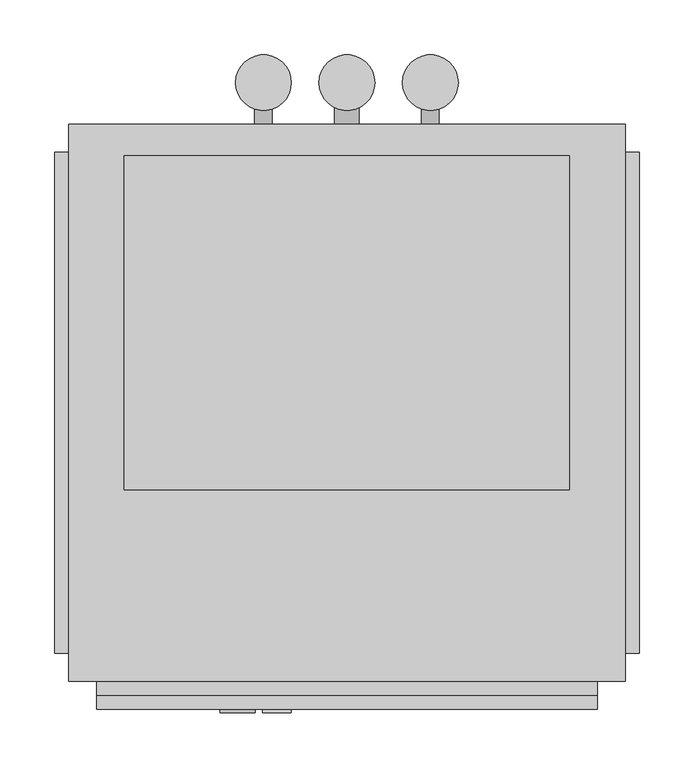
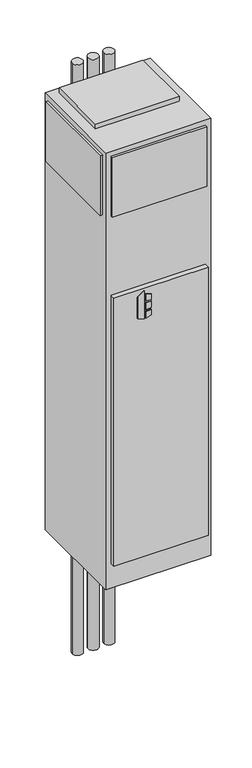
"""IFC4 building model written with IfcOpenShell, lengths in millimetres: proxy geometry, Concealed_Universal_Modular_Fan_Coil_Unit_-_MUY_-_IEC_-_2-Pipe_Cool-EHeat_-_WithRisers_2022 : Size 06 - 277v/60Hz/1Ph - 4 Row 6.0kW."""

from ifc_helpers import new_model, si_unit, point, frame, frame_2d, origin, origin_with_axes, place, context, project, spatial, polyline, circle_curve, trimmed, segment, composite_curve, outline, extrude, source, transform, mapped, element, save


def mechanical_equipment_33375677(model_context):
    return source(origin(), model_context, "Body", "SweptSolid", [
        extrude(outline(polyline([(1356.1480703, 290.5868862), (1346.2, 322.7602728), (1488.3709244, 322.7602728), (1465.3489183, 290.5868862), (1356.1480703, 290.5868862)])), frame((0.0, -292.1, 0.0), z_axis=(0.0, 1.0, 0.0), x_axis=(0.0, 0.0, 1.0)), (0.0, 0.0, 1.0), 3.175),
        extrude(outline(polyline([(1435.1473557, 329.5186058), (1431.9449632, 355.6), (1461.1738042, 355.6), (1469.2382193, 329.5186058), (1435.1473557, 329.5186058)])), frame((0.0, -292.1, 0.0), z_axis=(0.0, 1.0, 0.0), x_axis=(0.0, 0.0, 1.0)), (0.0, 0.0, 1.0), 3.175),
        extrude(outline(polyline([(1383.2838288, 355.6), (1379.6183279, 329.5186058), (1346.2, 329.5186058), (1354.8342372, 355.6), (1383.2838288, 355.6)])), frame((0.0, -292.1, 0.0), z_axis=(0.0, 1.0, 0.0), x_axis=(0.0, 0.0, 1.0)), (0.0, 0.0, 1.0), 3.175),
        extrude(outline(polyline([(1422.5989903, 355.6), (1424.8808166, 329.5186058), (1388.9432681, 329.5186058), (1391.6845331, 355.6), (1422.5989903, 355.6)])), frame((0.0, -292.1, 0.0), z_axis=(0.0, 1.0, 0.0), x_axis=(0.0, 0.0, 1.0)), (0.0, 0.0, 1.0), 3.175),
        extrude(outline(composite_curve([segment(trimmed(circle_curve(frame_2d((330.2, 282.575)), 25.4), [point((304.8, 282.575))], [point((355.6, 282.575))], False, "CARTESIAN"), True, "CONTINUOUS"), segment(trimmed(circle_curve(frame_2d((330.2, 282.575)), 25.4), [point((355.6, 282.575))], [point((304.8, 282.575))], False, "CARTESIAN"), True, "CONTINUOUS")], self_intersect=False)), frame((0.0, 0.0, -711.2), z_axis=(0.0, 0.0, 1.0), x_axis=(1.0, 0.0, 0.0)), (0.0, 0.0, 1.0), 3022.6),
        extrude(outline(composite_curve([segment(trimmed(circle_curve(frame_2d((406.4, 282.575)), 25.4), [point((381.0, 282.575))], [point((431.8, 282.575))], False, "CARTESIAN"), True, "CONTINUOUS"), segment(trimmed(circle_curve(frame_2d((406.4, 282.575)), 25.4), [point((431.8, 282.575))], [point((381.0, 282.575))], False, "CARTESIAN"), True, "CONTINUOUS")], self_intersect=False)), frame((0.0, 0.0, -711.2), z_axis=(0.0, 0.0, 1.0), x_axis=(1.0, 0.0, 0.0)), (0.0, 0.0, 1.0), 3022.6),
        extrude(outline(composite_curve([segment(trimmed(circle_curve(frame_2d((482.6, 282.575)), 25.4), [point((457.2, 282.575))], [point((508.0, 282.575))], False, "CARTESIAN"), True, "CONTINUOUS"), segment(trimmed(circle_curve(frame_2d((482.6, 282.575)), 25.4), [point((508.0, 282.575))], [point((457.2, 282.575))], False, "CARTESIAN"), True, "CONTINUOUS")], self_intersect=False)), frame((0.0, 0.0, -711.2), z_axis=(0.0, 0.0, 1.0), x_axis=(1.0, 0.0, 0.0)), (0.0, 0.0, 1.0), 3022.6),
        extrude(outline(composite_curve([segment(trimmed(circle_curve(frame_2d((990.6, 482.6)), 7.9375), [point((990.6, 474.6625))], [point((990.6, 490.5375))], False, "CARTESIAN"), True, "CONTINUOUS"), segment(trimmed(circle_curve(frame_2d((990.6, 482.6)), 7.9375), [point((990.6, 490.5375))], [point((990.6, 474.6625))], False, "CARTESIAN"), True, "CONTINUOUS")], self_intersect=False)), frame((0.0, 244.475, 0.0), z_axis=(0.0, 1.0, 0.0), x_axis=(0.0, 0.0, 1.0)), (0.0, 0.0, 1.0), 50.8),
        extrude(outline(composite_curve([segment(trimmed(circle_curve(frame_2d((990.6, 330.2)), 7.9375), [point((990.6, 322.2625))], [point((990.6, 338.1375))], False, "CARTESIAN"), True, "CONTINUOUS"), segment(trimmed(circle_curve(frame_2d((990.6, 330.2)), 7.9375), [point((990.6, 338.1375))], [point((990.6, 322.2625))], False, "CARTESIAN"), True, "CONTINUOUS")], self_intersect=False)), frame((0.0, 244.475, 0.0), z_axis=(0.0, 1.0, 0.0), x_axis=(0.0, 0.0, 1.0)), (0.0, 0.0, 1.0), 50.8),
        extrude(outline(composite_curve([segment(trimmed(circle_curve(frame_2d((76.2, 406.4)), 11.1125), [point((76.2, 395.2875))], [point((76.2, 417.5125))], False, "CARTESIAN"), True, "CONTINUOUS"), segment(trimmed(circle_curve(frame_2d((76.2, 406.4)), 11.1125), [point((76.2, 417.5125))], [point((76.2, 395.2875))], False, "CARTESIAN"), True, "CONTINUOUS")], self_intersect=False)), frame((0.0, 244.475, 0.0), z_axis=(0.0, 1.0, 0.0), x_axis=(0.0, 0.0, 1.0)), (0.0, 0.0, 1.0), 50.8),
        extrude(outline(polyline([(609.6, 215.9), (609.6, -88.9), (203.2, -88.9), (203.2, 215.9), (609.6, 215.9)])), frame((0.0, 0.0, 2235.2), z_axis=(0.0, 0.0, 1.0), x_axis=(1.0, 0.0, 0.0)), (0.0, 0.0, 1.0), 25.4),
        extrude(outline(polyline([(139.7, -238.125), (139.7, 219.075), (152.4, 219.075), (152.4, -238.125), (139.7, -238.125)])), frame((0.0, 0.0, 1905.0), z_axis=(0.0, 0.0, 1.0), x_axis=(1.0, 0.0, 0.0)), (0.0, 0.0, 1.0), 304.8),
        extrude(outline(polyline([(673.1, 219.075), (673.1, -238.125), (660.4, -238.125), (660.4, 219.075), (673.1, 219.075)])), frame((0.0, 0.0, 1905.0), z_axis=(0.0, 0.0, 1.0), x_axis=(1.0, 0.0, 0.0)), (0.0, 0.0, 1.0), 304.8),
        extrude(outline(polyline([(635.0, -276.225), (177.8, -276.225), (177.8, -263.525), (635.0, -263.525), (635.0, -276.225)])), frame((0.0, 0.0, 1905.0), z_axis=(0.0, 0.0, 1.0), x_axis=(1.0, 0.0, 0.0)), (0.0, 0.0, 1.0), 304.8),
        extrude(outline(polyline([(635.0, -288.925), (177.8, -288.925), (177.8, -263.525), (635.0, -263.525), (635.0, -288.925)])), frame((0.0, 0.0, 127.0), z_axis=(0.0, 0.0, 1.0), x_axis=(1.0, 0.0, 0.0)), (0.0, 0.0, 1.0), 1371.6),
        extrude(outline(polyline([(660.4, 244.475), (660.4, -263.525), (152.4, -263.525), (152.4, 244.475), (660.4, 244.475)])), origin_with_axes(), (0.0, 0.0, 1.0), 2235.2),
    ])


if __name__ == "__main__":
    model = new_model("IFC4")
    model_context = context("Model", 3, world=origin())
    ifc_project = project(units=[si_unit("LENGTHUNIT", "METRE", prefix="MILLI")], contexts=[model_context])
    site = spatial("IfcSite", under=ifc_project)
    building = spatial("IfcBuilding", under=site)
    placement = place(None, origin())
    mechanical_equipment_shape = mechanical_equipment_33375677(model_context)
    element("IfcBuildingElementProxy", 1, Name="Concealed_Universal_Modular_Fan_Coil_Unit_-_MUY_-_IEC_-_2-Pipe_Cool-EHeat_-_WithRisers_2022 : Size 06 - 277v/60Hz/1Ph - 4 Row 6.0kW", ObjectType="Concealed_Universal_Modular_Fan_Coil_Unit_-_MUY_-_IEC_-_2-Pipe_Cool-EHeat_-_WithRisers_2022 : Size 06 - 277v/60Hz/1Ph - 4 Row 6.0kW", at=placement, inside=building, context=model_context, shape_type="MappedRepresentation", body=[
        mapped(mechanical_equipment_shape, transform((0.0, 0.0, 0.0), x_axis=(1.0, 0.0, 0.0), y_axis=(0.0, 1.0, 0.0), z_axis=(0.0, 0.0, 1.0))),
    ])
    save(model, "model.ifc")
